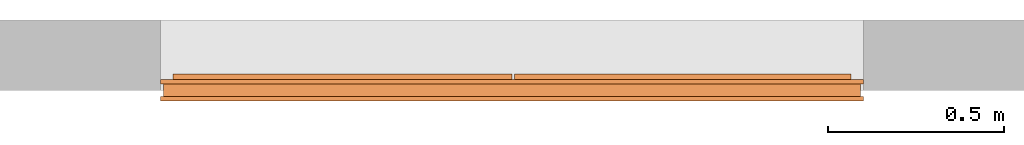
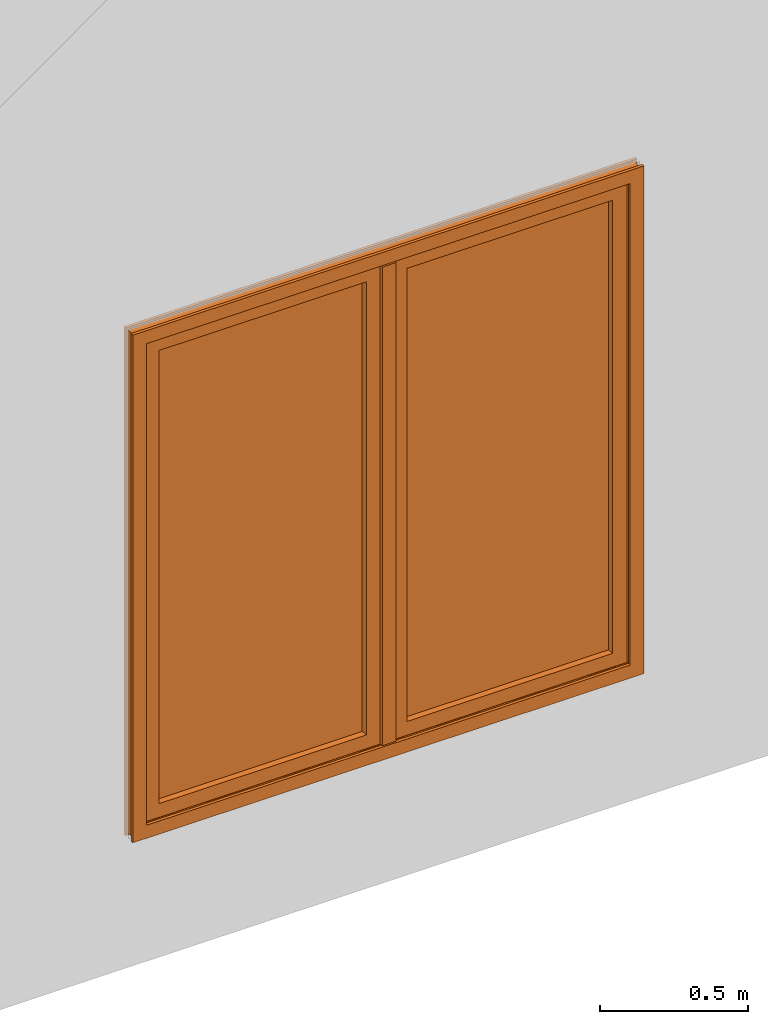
# One storey, part 2 of 2: 1 proxy.
"""IFC2X3 building model written with IfcOpenShell, lengths in millimetres."""

from ifc_helpers import new_model, entity, si_unit, converted_unit, derived_unit, direction, frame, origin, place, context, subcontext, project, spatial, faceted_brep, source, transform, mapped, material, material_list, type_object, type_shapes, element, save


model = new_model("IFC2X3")

# Units and contexts
model_context = context("Model", 3, precision=0.01, world=origin(), true_north=direction((6.12303176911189e-17, 1.0)))
body_context = subcontext(model_context, "Body", "Model", "MODEL_VIEW")
ifc_project = project(units=[si_unit("LENGTHUNIT", "METRE", prefix="MILLI"), si_unit("AREAUNIT", "SQUARE_METRE"), si_unit("VOLUMEUNIT", "CUBIC_METRE"), converted_unit("PLANEANGLEUNIT", "DEGREE", entity("IfcRatioMeasure", 0.0174532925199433), si_unit("PLANEANGLEUNIT", "RADIAN"), dimensions=[0, 0, 0, 0, 0, 0, 0]), si_unit("MASSUNIT", "GRAM", prefix="KILO"), derived_unit("MASSDENSITYUNIT", [(si_unit("MASSUNIT", "GRAM", prefix="KILO"), 1), (si_unit("LENGTHUNIT", "METRE"), -3)]), si_unit("TIMEUNIT", "SECOND"), si_unit("FREQUENCYUNIT", "HERTZ"), si_unit("THERMODYNAMICTEMPERATUREUNIT", "DEGREE_CELSIUS"), derived_unit("THERMALTRANSMITTANCEUNIT", [(si_unit("MASSUNIT", "GRAM", prefix="KILO"), 1), (si_unit("THERMODYNAMICTEMPERATUREUNIT", "KELVIN"), -1), (si_unit("TIMEUNIT", "SECOND"), -3)]), derived_unit("VOLUMETRICFLOWRATEUNIT", [(si_unit("LENGTHUNIT", "METRE"), 3), (si_unit("TIMEUNIT", "SECOND"), -1)]), si_unit("ELECTRICCURRENTUNIT", "AMPERE"), si_unit("ELECTRICVOLTAGEUNIT", "VOLT"), si_unit("POWERUNIT", "WATT"), si_unit("FORCEUNIT", "NEWTON", prefix="KILO"), si_unit("ILLUMINANCEUNIT", "LUX"), si_unit("LUMINOUSFLUXUNIT", "LUMEN"), si_unit("LUMINOUSINTENSITYUNIT", "CANDELA"), derived_unit("USERDEFINED", [(si_unit("MASSUNIT", "GRAM", prefix="KILO"), -1), (si_unit("LENGTHUNIT", "METRE"), -2), (si_unit("TIMEUNIT", "SECOND"), 3), (si_unit("LUMINOUSFLUXUNIT", "LUMEN"), 1)]), derived_unit("LINEARVELOCITYUNIT", [(si_unit("LENGTHUNIT", "METRE"), 1), (si_unit("TIMEUNIT", "SECOND"), -1)]), si_unit("PRESSUREUNIT", "PASCAL"), derived_unit("USERDEFINED", [(si_unit("LENGTHUNIT", "METRE"), -2), (si_unit("MASSUNIT", "GRAM", prefix="KILO"), 1), (si_unit("TIMEUNIT", "SECOND"), -2)])], contexts=[model_context])

# Site, building, storey
site_placement = place(None, origin())
site = spatial("IfcSite", under=ifc_project, at=site_placement, Name="Default", CompositionType="ELEMENT")
building_placement = place(site_placement, origin())
building = spatial("IfcBuilding", under=site, at=building_placement, CompositionType="ELEMENT")
storey_placement = place(building_placement, origin())
storey = spatial("IfcBuildingStorey", under=building, at=storey_placement, Name="Nivel 1", CompositionType="ELEMENT", Elevation=0.0)

# Proxy
ifc_material_1 = material(Name="RAU-PVC")
ifc_material_2 = material(Name="Glass")
ifc_material_list_1 = material_list([ifc_material_1, ifc_material_2])
ifc_material_list_2 = material_list([ifc_material_1, ifc_material_2])
building_element_proxy_type = type_object("IfcBuildingElementProxyType", Name="6.1 REH_ED-60 H Z74", material=ifc_material_list_2)
shared_shape = source(origin(), body_context, "Body", "Brep", [
    faceted_brep([(1946.0, 29.0, 54.0), (1946.0, 17.0, 54.0), (1946.0, 17.0, 2046.0), (1946.0, 29.0, 2046.0), (1972.20185432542, 65.0, 27.7981456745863), (1970.0, 29.0, 30.0), (1970.0, 29.0, 2070.0), (1972.20185432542, 65.0, 2072.20185432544), (1946.0, 77.0, 54.0), (1946.0, 65.0, 54.0), (1946.0, 65.0, 2046.0), (1946.0, 77.0, 2046.0), (2000.0, 65.0, 0.0), (2000.0, 77.0, 0.0), (2000.0, 77.0, 2100.0), (2000.0, 65.0, 2100.0), (1992.0, 29.0, 8.0), (1992.0, 65.0, 8.0), (1992.0, 65.0, 2092.0), (1992.0, 29.0, 2092.0), (2000.0, 17.0, 0.0), (2000.0, 29.0, 0.0), (2000.0, 29.0, 2100.0), (2000.0, 17.0, 2100.0), (54.0, 17.0, 2046.0), (54.0, 29.0, 2046.0), (30.0, 29.0, 2070.0), (27.7981456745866, 65.0, 2072.20185432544), (54.0, 65.0, 2046.0), (54.0, 77.0, 2046.0), (0.0, 77.0, 2100.0), (0.0, 65.0, 2100.0), (8.0, 65.0, 2092.0), (8.0, 29.0, 2092.0), (0.0, 29.0, 2100.0), (0.0, 17.0, 2100.0), (54.0, 17.0, 54.0), (54.0, 29.0, 54.0), (30.0, 29.0, 30.0), (27.7981456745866, 65.0, 27.7981456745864), (54.0, 65.0, 54.0), (54.0, 77.0, 54.0), (0.0, 77.0, 0.0), (0.0, 65.0, 0.0), (8.0, 65.0, 8.0), (8.0, 29.0, 8.0), (0.0, 29.0, 0.0), (0.0, 17.0, 0.0)], [[[0, 1, 2, 3]], [[4, 5, 6, 7]], [[8, 9, 10, 11]], [[12, 13, 14, 15]], [[16, 17, 18, 19]], [[20, 21, 22, 23]], [[3, 2, 24, 25]], [[7, 6, 26, 27]], [[11, 10, 28, 29]], [[15, 14, 30, 31]], [[19, 18, 32, 33]], [[23, 22, 34, 35]], [[25, 24, 36, 37]], [[27, 26, 38, 39]], [[29, 28, 40, 41]], [[31, 30, 42, 43]], [[33, 32, 44, 45]], [[35, 34, 46, 47]], [[1, 0, 37, 36]], [[0, 3, 25, 37], [6, 5, 38, 26]], [[5, 4, 39, 38]], [[4, 7, 27, 39], [10, 9, 40, 28]], [[9, 8, 41, 40]], [[8, 11, 29, 41], [14, 13, 42, 30]], [[13, 12, 43, 42]], [[12, 15, 31, 43], [18, 17, 44, 32]], [[17, 16, 45, 44]], [[16, 19, 33, 45], [22, 21, 46, 34]], [[21, 20, 47, 46]], [[2, 1, 36, 24], [20, 23, 35, 47]]], outer=[[True], [True], [True], [True], [True], [True], [True], [True], [True], [True], [True], [True], [True], [True], [True], [True], [True], [True], [True], [False, True], [True], [True, False], [True], [False, True], [True], [True, False], [True], [False, True], [True], [False, True]]),
    faceted_brep([(1024.0, 60.0, 2040.0), (1024.0, 76.9689840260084, 2040.0), (969.554593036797, 76.9689840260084, 2040.0), (969.554593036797, 60.0, 2040.0), (1024.0, 60.0, 60.0), (969.554593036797, 60.0, 60.0), (969.554593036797, 76.9689840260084, 60.0), (1024.0, 76.9689840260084, 60.0)], [[[0, 1, 2, 3]], [[4, 5, 6, 7]], [[1, 0, 4, 7]], [[2, 1, 7, 6]], [[3, 2, 6, 5]], [[0, 3, 5, 4]]]),
    faceted_brep([(1019.99931476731, 17.0, 2044.00068523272), (1019.99931476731, 60.0, 2044.00068523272), (1019.99931476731, 60.0, 55.9993147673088), (1019.99931476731, 17.0, 55.9993147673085), (1076.64994986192, 60.0, 1987.35005013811), (1081.74098451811, 41.0, 1982.25901548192), (1081.74098451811, 41.0, 117.740984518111), (1076.64994986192, 60.0, 112.649949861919), (1059.96931476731, 41.0, 2004.03068523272), (1059.96931476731, 22.0, 2004.03068523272), (1059.96931476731, 22.0, 95.969314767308), (1059.96931476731, 41.0, 95.969314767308), (1078.67499044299, 22.0, 1985.32500955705), (1072.72904449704, 0.0, 1991.27095550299), (1072.72904449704, 0.0, 108.729044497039), (1078.67499044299, 22.0, 114.674990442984), (999.999314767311, 0.0, 2064.00068523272), (999.999314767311, 17.0, 2064.00068523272), (999.999314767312, 17.0, 35.9993147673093), (999.999314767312, 0.0, 35.9993147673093), (1944.0006852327, 60.0, 55.9993147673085), (1944.0006852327, 17.0, 55.9993147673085), (1882.25901548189, 41.0, 117.740984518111), (1887.35005013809, 60.0, 112.649949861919), (1904.0306852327, 22.0, 95.9693147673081), (1904.0306852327, 41.0, 95.9693147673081), (1891.27095550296, 0.0, 108.729044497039), (1885.32500955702, 22.0, 114.674990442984), (1964.00068523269, 17.0, 35.9993147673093), (1964.00068523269, 0.0, 35.9993147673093), (1944.00068523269, 60.0, 2044.00068523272), (1944.00068523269, 17.0, 2044.00068523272), (1882.25901548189, 41.0, 1982.25901548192), (1887.35005013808, 60.0, 1987.35005013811), (1904.0306852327, 22.0, 2004.03068523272), (1904.0306852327, 41.0, 2004.03068523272), (1891.27095550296, 0.0, 1991.27095550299), (1885.32500955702, 22.0, 1985.32500955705), (1964.00068523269, 17.0, 2064.00068523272), (1964.00068523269, 0.0, 2064.00068523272)], [[[0, 1, 2, 3]], [[4, 5, 6, 7]], [[8, 9, 10, 11]], [[12, 13, 14, 15]], [[16, 17, 18, 19]], [[3, 2, 20, 21]], [[7, 6, 22, 23]], [[11, 10, 24, 25]], [[15, 14, 26, 27]], [[19, 18, 28, 29]], [[21, 20, 30, 31]], [[23, 22, 32, 33]], [[25, 24, 34, 35]], [[27, 26, 36, 37]], [[29, 28, 38, 39]], [[3, 21, 31, 0], [17, 38, 28, 18]], [[31, 30, 1, 0]], [[7, 23, 33, 4], [1, 30, 20, 2]], [[33, 32, 5, 4]], [[11, 25, 35, 8], [5, 32, 22, 6]], [[35, 34, 9, 8]], [[15, 27, 37, 12], [9, 34, 24, 10]], [[37, 36, 13, 12]], [[19, 29, 39, 16], [13, 36, 26, 14]], [[39, 38, 17, 16]]], outer=[[True], [True], [True], [True], [True], [True], [True], [True], [True], [True], [True], [True], [True], [True], [True], [False, True], [True], [False, True], [True], [True, False], [True], [False, True], [True], [True, False], [True]]),
    faceted_brep([(973.55527826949, 60.0, 2044.00068523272), (973.55527826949, 17.0, 2044.00068523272), (973.55527826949, 17.0, 55.9993147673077), (973.55527826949, 60.0, 55.9993147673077), (911.813608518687, 41.0, 1982.25901548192), (916.904643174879, 60.0, 1987.35005013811), (916.904643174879, 60.0, 112.649949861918), (911.813608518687, 41.0, 117.74098451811), (933.58527826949, 22.0, 2004.03068523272), (933.58527826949, 41.0, 2004.03068523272), (933.58527826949, 41.0, 95.9693147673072), (933.58527826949, 22.0, 95.9693147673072), (920.825548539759, 0.0, 1991.27095550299), (914.879602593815, 22.0, 1985.32500955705), (914.879602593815, 22.0, 114.674990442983), (920.825548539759, 0.0, 108.729044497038), (993.555278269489, 17.0, 2064.00068523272), (993.555278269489, 0.0, 2064.00068523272), (993.555278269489, 0.0, 35.9993147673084), (993.555278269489, 17.0, 35.9993147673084), (55.9993147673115, 17.0, 55.9993147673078), (55.9993147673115, 60.0, 55.9993147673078), (112.649949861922, 60.0, 112.649949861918), (117.740984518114, 41.0, 117.74098451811), (95.969314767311, 41.0, 95.9693147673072), (95.969314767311, 22.0, 95.9693147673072), (114.674990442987, 22.0, 114.674990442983), (108.729044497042, 0.0, 108.729044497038), (35.9993147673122, 0.0, 35.9993147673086), (35.9993147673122, 17.0, 35.9993147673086), (55.9993147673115, 17.0, 2044.00068523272), (55.9993147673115, 60.0, 2044.00068523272), (112.649949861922, 60.0, 1987.35005013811), (117.740984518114, 41.0, 1982.25901548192), (95.969314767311, 41.0, 2004.03068523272), (95.969314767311, 22.0, 2004.03068523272), (114.674990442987, 22.0, 1985.32500955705), (108.729044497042, 0.0, 1991.27095550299), (35.9993147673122, 0.0, 2064.00068523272), (35.9993147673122, 17.0, 2064.00068523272)], [[[0, 1, 2, 3]], [[4, 5, 6, 7]], [[8, 9, 10, 11]], [[12, 13, 14, 15]], [[16, 17, 18, 19]], [[3, 2, 20, 21]], [[7, 6, 22, 23]], [[11, 10, 24, 25]], [[15, 14, 26, 27]], [[19, 18, 28, 29]], [[21, 20, 30, 31]], [[23, 22, 32, 33]], [[25, 24, 34, 35]], [[27, 26, 36, 37]], [[29, 28, 38, 39]], [[19, 29, 39, 16], [1, 30, 20, 2]], [[31, 30, 1, 0]], [[3, 21, 31, 0], [5, 32, 22, 6]], [[33, 32, 5, 4]], [[7, 23, 33, 4], [9, 34, 24, 10]], [[35, 34, 9, 8]], [[11, 25, 35, 8], [13, 36, 26, 14]], [[37, 36, 13, 12]], [[15, 27, 37, 12], [17, 38, 28, 18]], [[39, 38, 17, 16]]], outer=[[True], [True], [True], [True], [True], [True], [True], [True], [True], [True], [True], [True], [True], [True], [True], [True, False], [True], [True, False], [True], [False, True], [True], [True, False], [True], [False, True], [True]]),
    faceted_brep([(60.0, 32.0, 2040.0), (969.554593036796, 32.0, 2040.0), (969.554593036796, 32.0, 60.0), (60.0, 32.0, 60.0), (60.0, 17.0, 2040.0), (60.0, 17.0, 60.0), (969.554593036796, 17.0, 60.0), (969.554593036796, 17.0, 2040.0)], [[[0, 1, 2, 3]], [[4, 5, 6, 7]], [[4, 7, 1, 0]], [[7, 6, 2, 1]], [[6, 5, 3, 2]], [[5, 4, 0, 3]]]),
    faceted_brep([(1024.0, 17.0, 2040.0), (1940.0, 17.0, 2040.0), (1940.0, 32.0, 2040.0), (1024.0, 32.0, 2040.0), (1024.0, 17.0, 60.0), (1024.0, 32.0, 60.0), (1940.0, 17.0, 60.0), (1940.0, 32.0, 60.0)], [[[0, 1, 2, 3]], [[4, 0, 3, 5]], [[6, 4, 5, 7]], [[1, 6, 7, 2]], [[1, 0, 4, 6]], [[2, 7, 5, 3]]]),
])
type_shapes(building_element_proxy_type, [shared_shape])
proxy_placement = place(storey_placement, frame((-1123.73357560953, 2828.09928072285, 533.049610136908), z_axis=(0.0, 0.0, 1.0), x_axis=(-1.0, 0.0, 0.0)))
element("IfcBuildingElementProxy", 1, at=proxy_placement, inside=storey, type_object=building_element_proxy_type, material=ifc_material_list_1, Name="6.1 REH_ED-60 H Z74 :6.1 REH_ED-60 H Z74", ObjectType="6.1 REH_ED-60 H Z74", context=body_context, shape_type="MappedRepresentation", body=[
    mapped(shared_shape, transform((0.0, 0.0, 0.0), scale=1.0)),
])

save(model, "model.ifc")
